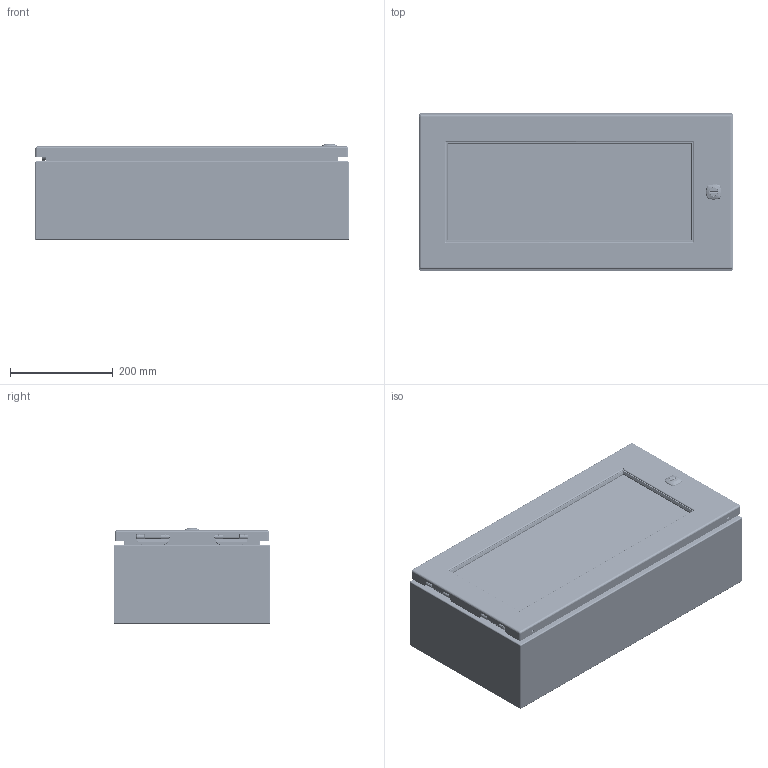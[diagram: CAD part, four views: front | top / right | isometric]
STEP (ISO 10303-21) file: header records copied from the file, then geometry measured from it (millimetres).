
FILE_DESCRIPTION(/* description */ ('5412ESW 12" x 24" x 6" Assembly'),/* implementation_level */ '2;1');
FILE_NAME(/* name */ 'C:\Vault_Workspace\Inventor_Dwg\BoxCad\Result\5412ESW122406\e-mail\3D\5412ESW122406.stp',/* time_stamp */ '2021-09-27T07:27:08-04:00',/* author */ ('BoxCad'),/* organization */ (''),/* preprocessor_version */ 'ST-DEVELOPER v18.1',/* originating_system */ 'Autodesk Inventor 2020',/* authorisation */ '');
FILE_SCHEMA (('AUTOMOTIVE_DESIGN { 1 0 10303 214 3 1 1 }'));
Products named in the file (56): 5412ESW122406; 5412ESW122406B; 5412ESW122406B-P; STK-Q-16005; STUD_M6 x 16mm; STK-S-00100; STK-Q-07610; 881SP2412G; 881SP2412G-P; STK-Q-07310; 5412ESW122406C; 5412ESW122406C-P; 5412ESW122406G; STK-K-09800; STK-K-09800-2; STK-Q-33014; STK-Q-90398; STK-Q-40095; STK-Q-63410; 5412ESW122406LX; 5412ESW122406LXG; 5412ESW122406_STK_G_02705; STK-Q-16052; 5412ESW122406_STK-A-60703; STK-Q-60703-2; STK-Q-60703-1; STK-Q-60703-3; STK-Q-60703-4; STK-Q-60702-A; STK-Q-60703-B; STK-Q-60703-C; STK-Q-60701; STK-Q-60701_1; STK-Q-60701_2; STK-Q-60701_3; STK-Q-60701_4; STK-Q-60701_5; STK-Q-60701-A; STK-Q-60701-B; STK-Q-60701-C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
Assembly tree (108 placements, depth 5):
  5412ESW122406
    5412ESW122406B
      5412ESW122406B-P
      STK-Q-16005  x4
      STK-P-02400S
      STUD_M6 x 16mm
      STK-S-00100
    STK-Q-07610  x4
    881SP2412G
      881SP2412G-P
    STK-Q-07310  x4
    5412ESW122406C
      5412ESW122406C-P
      5412ESW122406G
      STK-K-09800
        STK-Q-33014
        STK-Q-90398
        STK-Q-40095  x2
        STK-Q-63410  x2
      STK-K-09800-2
        STK-Q-33014
        STK-Q-90398
        STK-Q-40095  x2
        STK-Q-63410  x2
      5412ESW122406LX
      5412ESW122406LXG
      5412ESW122406_STK_G_02705
      STK-Q-16052  x10
      5412ESW122406_STK-A-60703
        STK-Q-60703-2
          STK-Q-60702-A
          STK-Q-60703-B
          STK-Q-60703-C
        STK-Q-60703-1
          STK-Q-60702-A
          STK-Q-60703-B
          STK-Q-60703-C
        STK-Q-60703-3
          STK-Q-60702-A
          STK-Q-60703-B
          STK-Q-60703-C
        STK-Q-60703-4
          STK-Q-60702-A
          STK-Q-60703-B
          STK-Q-60703-C
      STK-Q-60701
        STK-Q-60701-A
        STK-Q-60701-B
        STK-Q-60701-C
      STK-Q-60701_1
        STK-Q-60701-A
        STK-Q-60701-B
        STK-Q-60701-C
      STK-Q-60701_2
        STK-Q-60701-A
        STK-Q-60701-B
        STK-Q-60701-C
      STK-Q-60701_3
        STK-Q-60701-A
        STK-Q-60701-B
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Bounding box: 609.67 x 304.8 x 185.55 mm (x, y, z)
Volume: 2389588.3 mm3; surface area: 2177560.4 mm2
Topology: 85 solids, 85 shells, 16667 faces, 45302 edges, 29123 vertices
Faces by surface type: bspline 6083, plane 5407, cylinder 4098, torus 582, sphere 284, cone 213
Full cylindrical faces by diameter (mm): 0 x1, 0.75 x15, 0.762 x15, 1 x8, 1.1 x8, 3.2 x4, 4.4 x8, 4.5 x10, 4.521 x8, 4.75 x2, 4.85 x16, 4.95 x4, 5 x10, 5.1 x53, 5.156 x4, 5.6 x2, 5.9 x21, 6.65 x4, 6.85 x16, 6.894 x8, 7 x20, 7.3 x2, 7.366 x14, 7.9 x4, 8 x24, 8.382 x2, 9 x10, 9.5 x10, 9.6 x1, 9.906 x4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
Entity records: 200278 total; most frequent: CARTESIAN_POINT 80579, ORIENTED_EDGE 27308, DIRECTION 19885, EDGE_CURVE 13654, VERTEX_POINT 8666, AXIS2_PLACEMENT_3D 6873, LINE 6139, VECTOR 6139
